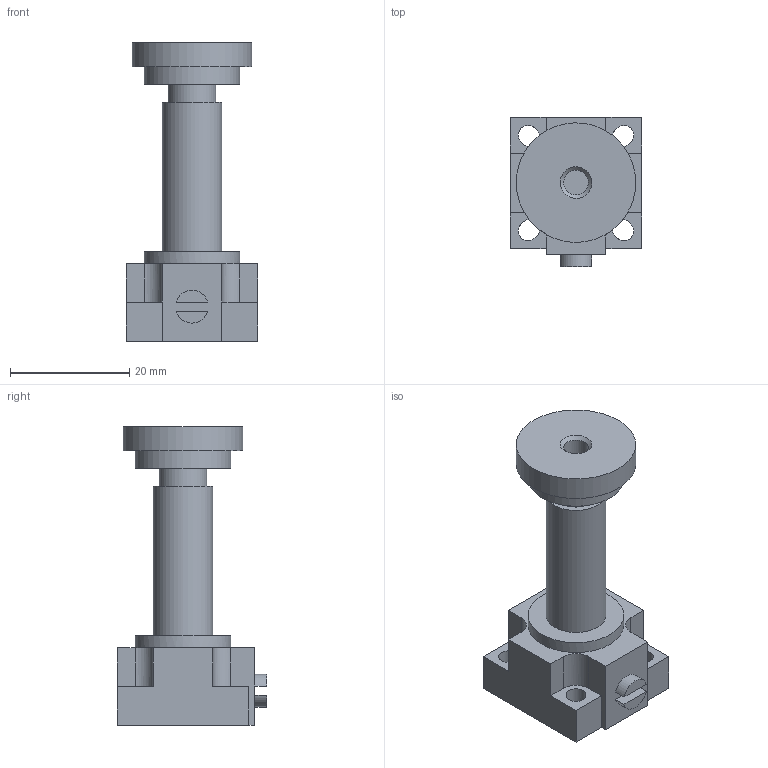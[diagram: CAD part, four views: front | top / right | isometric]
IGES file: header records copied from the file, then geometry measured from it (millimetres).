
Global section: file name: M2-1; native system: Autodesk Inventor 2014; preprocessor: unknown; organization: Pneumax S.p.A.; date: 20161003.113713; units: millimetre
Bounding box: 22 x 25 x 50 mm (x, y, z)
Volume: 9588.7 mm3; surface area: 4369.9 mm2
Topology: 1 solids, 1 shells, 59 faces, 159 edges, 110 vertices
Faces by surface type: bspline 59
